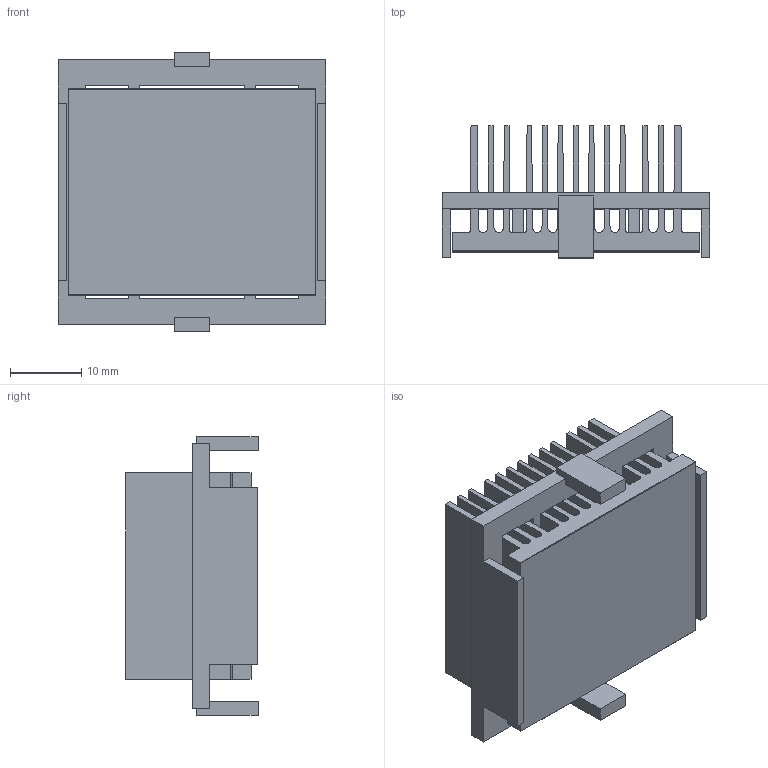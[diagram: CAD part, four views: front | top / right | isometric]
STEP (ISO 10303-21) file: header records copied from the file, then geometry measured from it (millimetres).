
FILE_DESCRIPTION (( 'STEP AP214' ), '1' );
FILE_NAME ('INH35001-18-2.6O.STEP', '2023-02-17T22:48:00', ( '' ), ( '' ), 'SwSTEP 2.0', 'SolidWorks 2020', '' );
FILE_SCHEMA (( 'AUTOMOTIVE_DESIGN' ));
Length unit declared in the file: millimetre
Products named in the file (1): INH35001-18-2.6O
Bounding box: 37.7 x 18.6 x 39.2 mm (x, y, z)
Volume: 9175 mm3; surface area: 18576.6 mm2
Topology: 3 solids, 3 shells, 144 faces, 414 edges, 276 vertices
Faces by surface type: plane 118, cylinder 26
Entity records: 6310 total; most frequent: CARTESIAN_POINT 835, ORIENTED_EDGE 828, DIRECTION 756, EDGE_CURVE 414, VECTOR 362, LINE 362, VERTEX_POINT 276, AXIS2_PLACEMENT_3D 197
